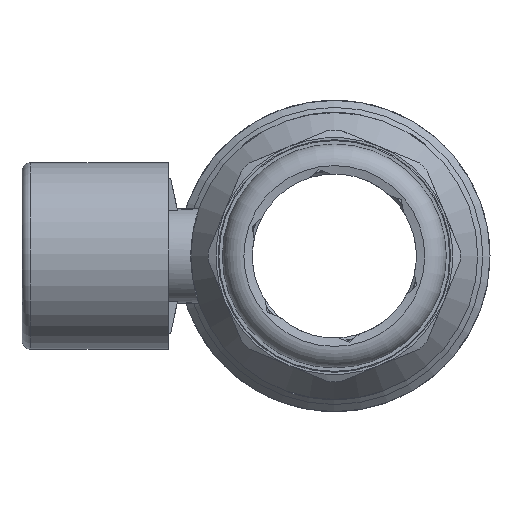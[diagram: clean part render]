
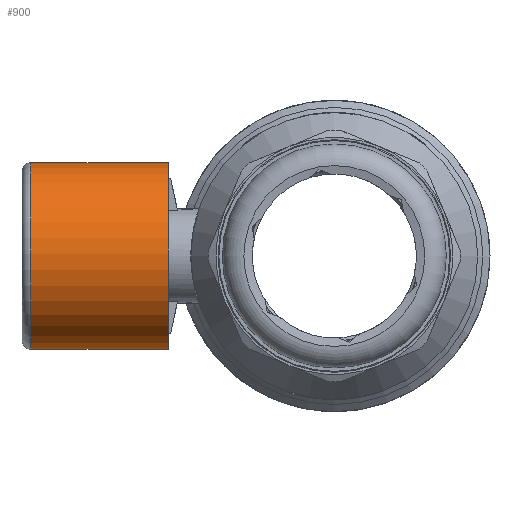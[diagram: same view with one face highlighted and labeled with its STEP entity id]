
A CAD part, left-side view. The second image highlights one B-rep face of the part: STEP entity #900.
In plain terms, the highlighted cylindrical face has radius 21.7 mm (diameter 43.4 mm), a full revolution.
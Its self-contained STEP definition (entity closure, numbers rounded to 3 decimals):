
#858=CARTESIAN_POINT('',(-3.133,70.5,21.444));
#859=VERTEX_POINT('',#858);
#860=CARTESIAN_POINT('',(0.189,70.5,0.));
#861=DIRECTION('',(0.0,1.0,0.0));
#862=DIRECTION('',(-0.153,0.0,0.988));
#863=AXIS2_PLACEMENT_3D('',#860,#861,#862);
#864=CIRCLE('',#863,21.7);
#865=EDGE_CURVE('',#859,#859,#864,.T.);
#881=CARTESIAN_POINT('',(0.189,54.5,0.0));
#882=DIRECTION('',(0.0,1.0,0.0));
#883=DIRECTION('',(-0.988,0.0,-0.153));
#884=AXIS2_PLACEMENT_3D('',#881,#882,#883);
#885=CYLINDRICAL_SURFACE('',#884,21.7);
#886=CARTESIAN_POINT('',(-3.133,38.5,21.444));
#887=VERTEX_POINT('',#886);
#888=CARTESIAN_POINT('',(0.189,38.5,0.));
#889=DIRECTION('',(0.0,1.0,0.0));
#890=DIRECTION('',(-0.153,0.0,0.988));
#891=AXIS2_PLACEMENT_3D('',#888,#889,#890);
#892=CIRCLE('',#891,21.7);
#893=EDGE_CURVE('',#887,#887,#892,.T.);
#894=ORIENTED_EDGE('',*,*,#893,.T.);
#895=EDGE_LOOP('',(#894));
#896=FACE_OUTER_BOUND('',#895,.T.);
#897=ORIENTED_EDGE('',*,*,#865,.F.);
#898=EDGE_LOOP('',(#897));
#899=FACE_BOUND('',#898,.T.);
#900=ADVANCED_FACE('',(#896,#899),#885,.T.);
